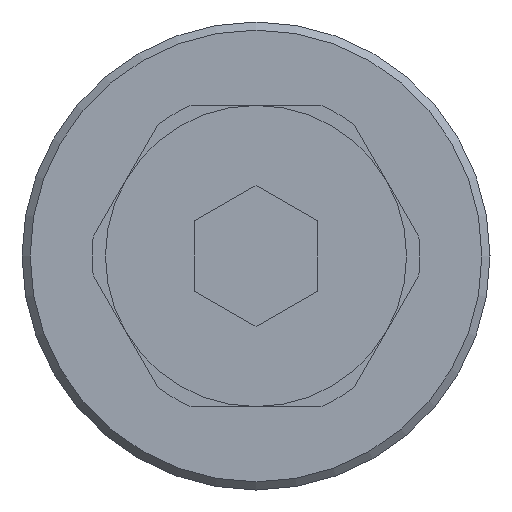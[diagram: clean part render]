
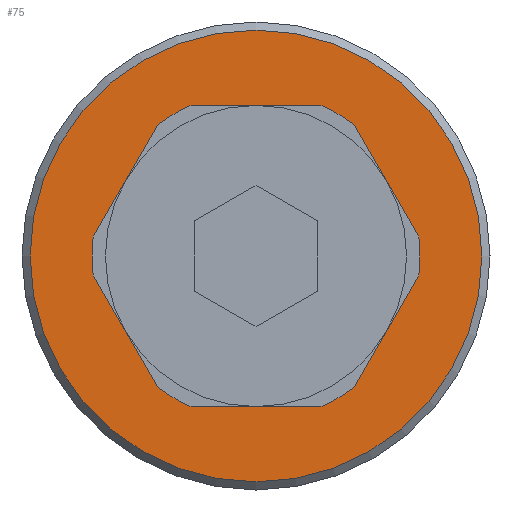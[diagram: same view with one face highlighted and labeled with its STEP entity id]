
A CAD part, left-side view. The second image highlights one B-rep face of the part: STEP entity #75.
In plain terms, the highlighted planar face has unit normal (-1, 0, 0).
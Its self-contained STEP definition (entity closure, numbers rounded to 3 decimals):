
#75 = ADVANCED_FACE( '', ( #182, #183 ), #184, .F. );
#182 = FACE_OUTER_BOUND( '', #329, .T. );
#183 = FACE_BOUND( '', #330, .T. );
#184 = PLANE( '', #331 );
#329 = EDGE_LOOP( '', ( #492 ) );
#330 = EDGE_LOOP( '', ( #493, #494, #495, #496, #497, #498, #499, #500, #501, #502, #503, #504 ) );
#331 = AXIS2_PLACEMENT_3D( '', #505, #506, #507 );
#492 = ORIENTED_EDGE( '', *, *, #802, .F. );
#493 = ORIENTED_EDGE( '', *, *, #778, .T. );
#494 = ORIENTED_EDGE( '', *, *, #803, .T. );
#495 = ORIENTED_EDGE( '', *, *, #804, .T. );
#496 = ORIENTED_EDGE( '', *, *, #805, .T. );
#497 = ORIENTED_EDGE( '', *, *, #806, .T. );
#498 = ORIENTED_EDGE( '', *, *, #807, .T. );
#499 = ORIENTED_EDGE( '', *, *, #808, .T. );
#500 = ORIENTED_EDGE( '', *, *, #809, .T. );
#501 = ORIENTED_EDGE( '', *, *, #810, .F. );
#502 = ORIENTED_EDGE( '', *, *, #811, .T. );
#503 = ORIENTED_EDGE( '', *, *, #812, .T. );
#504 = ORIENTED_EDGE( '', *, *, #796, .T. );
#505 = CARTESIAN_POINT( '', ( 0., 0., 0. ) );
#506 = DIRECTION( '', ( 1., 0., 0. ) );
#507 = DIRECTION( '', ( 0., 0., -1. ) );
#778 = EDGE_CURVE( '', #901, #902, #903, .T. );
#796 = EDGE_CURVE( '', #933, #901, #934, .T. );
#802 = EDGE_CURVE( '', #942, #942, #943, .T. );
#803 = EDGE_CURVE( '', #902, #944, #945, .T. );
#804 = EDGE_CURVE( '', #944, #946, #947, .T. );
#805 = EDGE_CURVE( '', #946, #948, #949, .T. );
#806 = EDGE_CURVE( '', #948, #950, #951, .T. );
#807 = EDGE_CURVE( '', #950, #952, #953, .T. );
#808 = EDGE_CURVE( '', #952, #954, #955, .T. );
#809 = EDGE_CURVE( '', #954, #956, #957, .T. );
#810 = EDGE_CURVE( '', #958, #956, #959, .F. );
#811 = EDGE_CURVE( '', #958, #960, #961, .T. );
#812 = EDGE_CURVE( '', #960, #933, #962, .T. );
#901 = VERTEX_POINT( '', #1078 );
#902 = VERTEX_POINT( '', #1079 );
#903 = CIRCLE( '', #1080, 4.03 );
#933 = VERTEX_POINT( '', #1114 );
#934 = LINE( '', #1115, #1116 );
#942 = VERTEX_POINT( '', #1125 );
#943 = CIRCLE( '', #1126, 5.55 );
#944 = VERTEX_POINT( '', #1127 );
#945 = LINE( '', #1128, #1129 );
#946 = VERTEX_POINT( '', #1130 );
#947 = CIRCLE( '', #1131, 4.03 );
#948 = VERTEX_POINT( '', #1132 );
#949 = LINE( '', #1133, #1134 );
#950 = VERTEX_POINT( '', #1135 );
#951 = CIRCLE( '', #1136, 4.03 );
#952 = VERTEX_POINT( '', #1137 );
#953 = LINE( '', #1138, #1139 );
#954 = VERTEX_POINT( '', #1140 );
#955 = CIRCLE( '', #1141, 4.03 );
#956 = VERTEX_POINT( '', #1142 );
#957 = LINE( '', #1143, #1144 );
#958 = VERTEX_POINT( '', #1145 );
#959 = CIRCLE( '', #1146, 4.03 );
#960 = VERTEX_POINT( '', #1147 );
#961 = LINE( '', #1148, #1149 );
#962 = CIRCLE( '', #1150, 4.03 );
#1078 = CARTESIAN_POINT( '', ( 0., -1.597, 3.7 ) );
#1079 = CARTESIAN_POINT( '', ( 0., -2.406, 3.233 ) );
#1080 = AXIS2_PLACEMENT_3D( '', #1302, #1303, #1304 );
#1114 = CARTESIAN_POINT( '', ( 0., 1.597, 3.7 ) );
#1115 = CARTESIAN_POINT( '', ( 0., 1.597, 3.7 ) );
#1116 = VECTOR( '', #1339, 1000. );
#1125 = CARTESIAN_POINT( '', ( 0., 0., -5.55 ) );
#1126 = AXIS2_PLACEMENT_3D( '', #1347, #1348, #1349 );
#1127 = CARTESIAN_POINT( '', ( 0., -4.003, 0.467 ) );
#1128 = CARTESIAN_POINT( '', ( 0., -2.406, 3.233 ) );
#1129 = VECTOR( '', #1350, 1000. );
#1130 = CARTESIAN_POINT( '', ( 0., -4.003, -0.467 ) );
#1131 = AXIS2_PLACEMENT_3D( '', #1351, #1352, #1353 );
#1132 = CARTESIAN_POINT( '', ( 0., -2.406, -3.233 ) );
#1133 = CARTESIAN_POINT( '', ( 0., -4.003, -0.467 ) );
#1134 = VECTOR( '', #1354, 1000. );
#1135 = CARTESIAN_POINT( '', ( 0., -1.597, -3.7 ) );
#1136 = AXIS2_PLACEMENT_3D( '', #1355, #1356, #1357 );
#1137 = CARTESIAN_POINT( '', ( 0., 1.597, -3.7 ) );
#1138 = CARTESIAN_POINT( '', ( 0., -1.597, -3.7 ) );
#1139 = VECTOR( '', #1358, 1000. );
#1140 = CARTESIAN_POINT( '', ( 0., 2.406, -3.233 ) );
#1141 = AXIS2_PLACEMENT_3D( '', #1359, #1360, #1361 );
#1142 = CARTESIAN_POINT( '', ( 0., 4.003, -0.467 ) );
#1143 = CARTESIAN_POINT( '', ( 0., 2.406, -3.233 ) );
#1144 = VECTOR( '', #1362, 1000. );
#1145 = CARTESIAN_POINT( '', ( 0., 4.003, 0.467 ) );
#1146 = AXIS2_PLACEMENT_3D( '', #1363, #1364, #1365 );
#1147 = CARTESIAN_POINT( '', ( 0., 2.406, 3.233 ) );
#1148 = CARTESIAN_POINT( '', ( 0., 4.003, 0.467 ) );
#1149 = VECTOR( '', #1366, 1000. );
#1150 = AXIS2_PLACEMENT_3D( '', #1367, #1368, #1369 );
#1302 = CARTESIAN_POINT( '', ( 0., 0., 0. ) );
#1303 = DIRECTION( '', ( 1., 0., 0. ) );
#1304 = DIRECTION( '', ( 0., 0., -1. ) );
#1339 = DIRECTION( '', ( 0., -1., 0. ) );
#1347 = CARTESIAN_POINT( '', ( 0., 0., 0. ) );
#1348 = DIRECTION( '', ( 1., 0., 0. ) );
#1349 = DIRECTION( '', ( 0., 0., -1. ) );
#1350 = DIRECTION( '', ( 0., -0.5, -0.866 ) );
#1351 = CARTESIAN_POINT( '', ( 0., 0., 0. ) );
#1352 = DIRECTION( '', ( 1., 0., 0. ) );
#1353 = DIRECTION( '', ( 0., 0., -1. ) );
#1354 = DIRECTION( '', ( 0., 0.5, -0.866 ) );
#1355 = CARTESIAN_POINT( '', ( 0., 0., 0. ) );
#1356 = DIRECTION( '', ( 1., 0., 0. ) );
#1357 = DIRECTION( '', ( 0., 0., -1. ) );
#1358 = DIRECTION( '', ( 0., 1., 0. ) );
#1359 = CARTESIAN_POINT( '', ( 0., 0., 0. ) );
#1360 = DIRECTION( '', ( 1., 0., 0. ) );
#1361 = DIRECTION( '', ( 0., 0., -1. ) );
#1362 = DIRECTION( '', ( 0., 0.5, 0.866 ) );
#1363 = CARTESIAN_POINT( '', ( 0., 0., 0. ) );
#1364 = DIRECTION( '', ( 1., 0., 0. ) );
#1365 = DIRECTION( '', ( 0., 0., -1. ) );
#1366 = DIRECTION( '', ( 0., -0.5, 0.866 ) );
#1367 = CARTESIAN_POINT( '', ( 0., 0., 0. ) );
#1368 = DIRECTION( '', ( 1., 0., 0. ) );
#1369 = DIRECTION( '', ( 0., 0., -1. ) );
